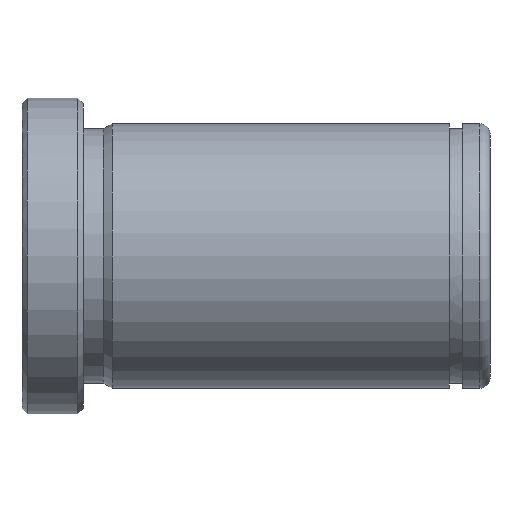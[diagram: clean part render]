
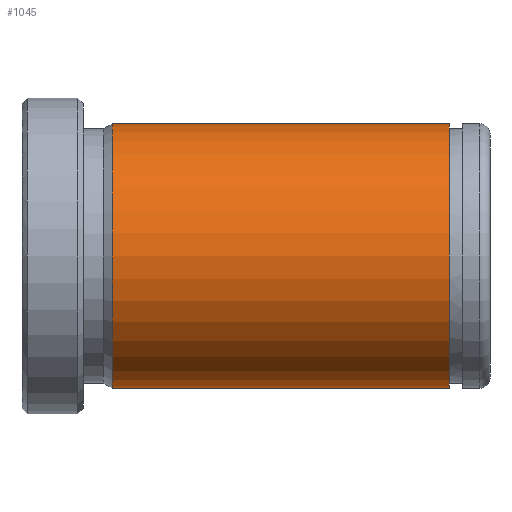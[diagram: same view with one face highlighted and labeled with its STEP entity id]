
A CAD part, front view. The second image highlights one B-rep face of the part: STEP entity #1045.
In plain terms, the highlighted cylindrical face has radius 13 mm (diameter 26 mm), a partial arc.
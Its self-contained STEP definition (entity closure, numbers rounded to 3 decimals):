
#851=CARTESIAN_POINT('Vertex',(8.866,0.,-13.)) ;
#858=CARTESIAN_POINT('Vertex',(8.866,0.,13.)) ;
#887=CARTESIAN_POINT('Axis2P3D Location',(8.866,0.,0.)) ;
#891=CARTESIAN_POINT('Vertex',(8.866,-13.,0.)) ;
#894=CARTESIAN_POINT('Axis2P3D Location',(8.866,0.,0.)) ;
#985=CARTESIAN_POINT('Line Origine',(92.,0.,13.)) ;
#989=CARTESIAN_POINT('Vertex',(42.,0.,13.)) ;
#1003=CARTESIAN_POINT('Vertex',(42.,0.,-13.)) ;
#1006=CARTESIAN_POINT('Line Origine',(92.,0.,-13.)) ;
#1020=CARTESIAN_POINT('Axis2P3D Location',(92.,0.,0.)) ;
#1025=CARTESIAN_POINT('Axis2P3D Location',(42.,0.,0.)) ;
#1029=CARTESIAN_POINT('Vertex',(42.,-13.,0.)) ;
#1032=CARTESIAN_POINT('Axis2P3D Location',(42.,0.,0.)) ;
#888=DIRECTION('Axis2P3D Direction',(1.,0.,-0.)) ;
#895=DIRECTION('Axis2P3D Direction',(1.,0.,-0.)) ;
#986=DIRECTION('Vector Direction',(-1.,0.,0.)) ;
#1007=DIRECTION('Vector Direction',(-1.,0.,0.)) ;
#1021=DIRECTION('Axis2P3D Direction',(-1.,-0.,-0.)) ;
#1022=DIRECTION('Axis2P3D XDirection',(0.,0.,-1.)) ;
#1026=DIRECTION('Axis2P3D Direction',(-1.,-0.,-0.)) ;
#1033=DIRECTION('Axis2P3D Direction',(-1.,-0.,-0.)) ;
#889=AXIS2_PLACEMENT_3D('Circle Axis2P3D',#887,#888,$) ;
#896=AXIS2_PLACEMENT_3D('Circle Axis2P3D',#894,#895,$) ;
#1023=AXIS2_PLACEMENT_3D('Cylinder Axis2P3D',#1020,#1021,#1022) ;
#1027=AXIS2_PLACEMENT_3D('Circle Axis2P3D',#1025,#1026,$) ;
#1034=AXIS2_PLACEMENT_3D('Circle Axis2P3D',#1032,#1033,$) ;
#1038=ORIENTED_EDGE('',*,*,#1010,.T.) ;
#1039=ORIENTED_EDGE('',*,*,#1031,.F.) ;
#1040=ORIENTED_EDGE('',*,*,#1036,.F.) ;
#1041=ORIENTED_EDGE('',*,*,#991,.T.) ;
#1042=ORIENTED_EDGE('',*,*,#898,.T.) ;
#1043=ORIENTED_EDGE('',*,*,#893,.T.) ;
#987=VECTOR('Line Direction',#986,1.) ;
#1008=VECTOR('Line Direction',#1007,1.) ;
#1045=ADVANCED_FACE('553-18X46',(#1044),#1024,.T.) ;
#890=CIRCLE('generated circle',#889,13.) ;
#897=CIRCLE('generated circle',#896,13.) ;
#1028=CIRCLE('generated circle',#1027,13.) ;
#1035=CIRCLE('generated circle',#1034,13.) ;
#1024=CYLINDRICAL_SURFACE('generated cylinder',#1023,13.) ;
#893=EDGE_CURVE('',#892,#852,#890,.T.) ;
#898=EDGE_CURVE('',#859,#892,#897,.T.) ;
#991=EDGE_CURVE('',#990,#859,#988,.T.) ;
#1010=EDGE_CURVE('',#852,#1004,#1009,.F.) ;
#1031=EDGE_CURVE('',#1030,#1004,#1028,.F.) ;
#1036=EDGE_CURVE('',#990,#1030,#1035,.F.) ;
#1037=EDGE_LOOP('',(#1038,#1039,#1040,#1041,#1042,#1043)) ;
#1044=FACE_OUTER_BOUND('',#1037,.T.) ;
#988=LINE('Line',#985,#987) ;
#1009=LINE('Line',#1006,#1008) ;
#852=VERTEX_POINT('',#851) ;
#859=VERTEX_POINT('',#858) ;
#892=VERTEX_POINT('',#891) ;
#990=VERTEX_POINT('',#989) ;
#1004=VERTEX_POINT('',#1003) ;
#1030=VERTEX_POINT('',#1029) ;
